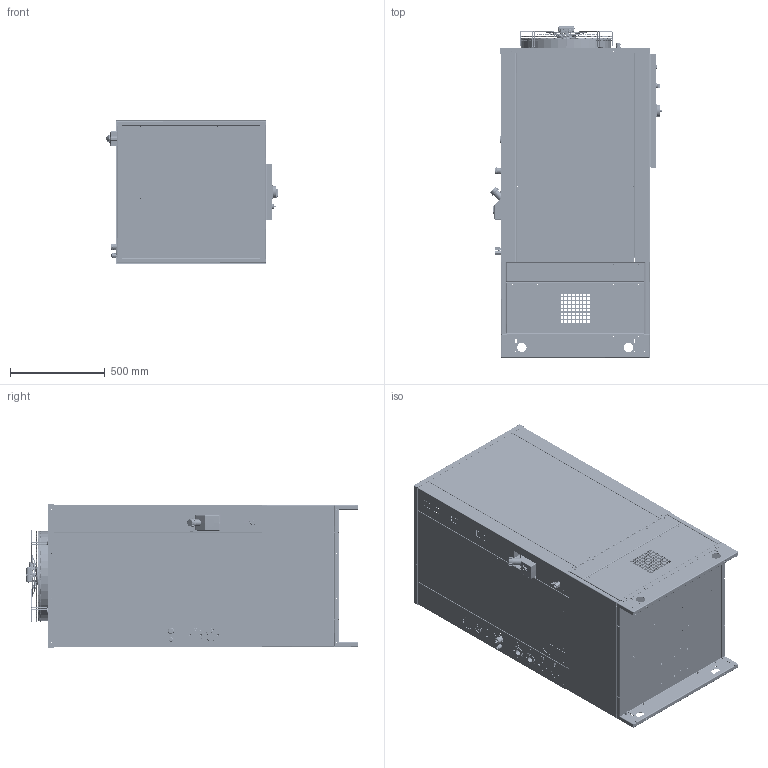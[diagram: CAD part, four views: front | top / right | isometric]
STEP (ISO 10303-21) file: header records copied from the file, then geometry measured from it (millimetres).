
FILE_DESCRIPTION (( 'STEP AP214' ), '1' );
FILE_NAME ('50-2D-00008+50-2D-00012.STEP', '2018-12-11T15:44:54', ( 'Utente' ), ( 'Microsoft' ), 'SwSTEP 2.0', 'SolidWorks 2013', '' );
FILE_SCHEMA (( 'AUTOMOTIVE_DESIGN' ));
Length unit declared in the file: millimetre
Products named in the file (56): VR-2D-00006_001; VR-2D-00012_000; VR-2D-00001_002; Rivelox M5 Reduced Head Hexagonal Shank._; VR-2D-00011_000; VR-2D-00001_002B; Rivelox M5 Reduced Head Hexagonal Shank.; VR-2D-00001_002A; VR-2D-00005_001; VA-A5-00001; IN-VI-00001; 50-2D-00012; VR-2D-00008_001; TAPPO 1P  FEM ; VR-2D-00024_001; SE-RP-00041_000; VR-3D-00021_001; INSERTO ESAG  1G; VR-2D-00023_003; CR-2D-00002_001; SE-RP-00041_CORPO; VR-2D-00025_002; ST-AT-00020_003; QUADRO_ELETTRICO_BK_BK; VR-2D-00003_002; pg-21 nelco_Cable-Gland-1.209.2100.15-Nelco; CR-2D-00010_001; TE-EL-00007 - EW_971_230V_BK; RIVELOX M5; SELETTORE_NERO_BK_BK; pg-21 nelco_part2_Nut-PA-Grey-33-33-31-Nelco; CR-2D-00009_001; Tappo quadro elettrico_BK_BK; DED965FB-6F17-44D8-8B5E-7FBD67AD56EC_3_BK_BK; 50-2D-00008+50-2D-00012; pg-21 nelco_part1_Socket-1.209.2100.15-Nelco; VR-2D-00014_000; AEC1022B_STUDIO_3_BK_BK; MA-N1-00001_MANOMETRO ACQUA 40mm 0-12 BAR; VR-2D-00013_001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
Assembly tree (134 placements, depth 4):
  50-2D-00008+50-2D-00012
    50-2D-00012
      VR-2D-00003_002
        VR-2D-00003_002
        RIVELOX M5  x24
      VR-2D-00025_002  x2
      VR-2D-00023_003
      VR-2D-00024_001  x2
        VR-2D-00024_001
        RIVELOX M5
    VR-2D-00011_000
      VR-2D-00011_000
      Rivelox M5 Reduced Head Hexagonal Shank.  x8
    VR-2D-00012_000
      VR-2D-00012_000
      Rivelox M5 Reduced Head Hexagonal Shank.  x8
    VR-2D-00013_001
      VR-2D-00013_001
      Rivelox M5 Reduced Head Hexagonal Shank.  x5
    VR-2D-00014_000
      VR-2D-00014_000
      Rivelox M5 Reduced Head Hexagonal Shank.  x5
    CR-2D-00009_001
      CR-2D-00009_001
      RIVELOX M5  x6
    CR-2D-00010_001
      CR-2D-00010_001
      RIVELOX M5  x6
    CR-2D-00002_001
      CR-2D-00002_001
      RIVELOX M5  x6
    VR-3D-00021_001
    VR-2D-00008_001
      VR-2D-00008_001
      Rivelox M5 Reduced Head Hexagonal Shank.  x2
    VR-2D-00005_001
      VR-2D-00005_001
      Rivelox M5 Reduced Head Hexagonal Shank.  x2
    VR-2D-00001_002
      VR-2D-00001_002A
      VR-2D-00001_002B
    PG 13.5_Cable-Gland-1.209.1300.14-Nelco  x2
      PG 13.5_2_Nut-PA-Grey-24-24-27-Nelco
      PG 13.5_1_Socket-1.209.1300.14-Nelco
    QUADRO_ELETTRICO_BK_BK
      AEC1022B_STUDIO_3_BK_BK
      DED965FB-6F17-44D8-8B5E-7FBD67AD56EC_3_BK_BK
      Tappo quadro elettrico_BK_BK
      SELETTORE_NERO_BK_BK
      TE-EL-00007 - EW_971_230V_BK
    SE-RP-00041_000
      SE-RP-00041_CORPO
      INSERTO ESAG  1G
    TAPPO 1P  FEM 
    IN-VI-00001
    VA-A5-00001
    VR-2D-00006_001
      VR-2D-00006_001
      Rivelox M5 Reduced Head Hexagonal Shank._  x2
    VE-W3-00001
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Bounding box: 904.6 x 1746.76 x 756.5 mm (x, y, z)
Volume: 17479474.9 mm3; surface area: 20365104.8 mm2
Topology: 158 solids, 365 shells, 11372 faces, 33458 edges, 22323 vertices
Faces by surface type: plane 6305, cylinder 2501, bspline 1698, cone 678, torus 149, sphere 41
Entity records: 521749 total; most frequent: CARTESIAN_POINT 249855, ORIENTED_EDGE 51763, DIRECTION 43051, EDGE_CURVE 28804, VERTEX_POINT 19421, LINE 16141, VECTOR 16141, AXIS2_PLACEMENT_3D 13455
